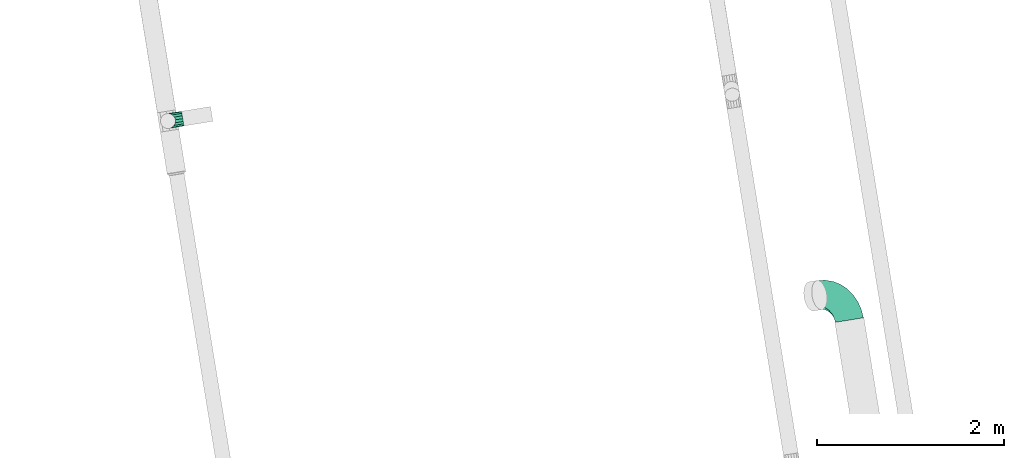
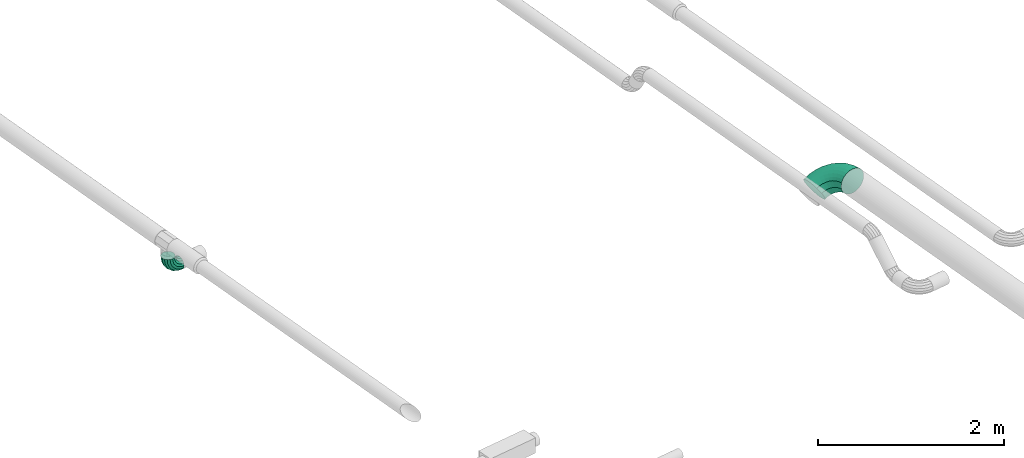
# One storey, part 18 of 19: 2 flow fittings.
"""IFC2X3 building model written with IfcOpenShell, lengths in millimetres."""

from ifc_helpers import new_model, entity, si_unit, converted_unit, derived_unit, direction, frame, origin, origin_with_axes, place, context, subcontext, project, spatial, faceted_brep, source, transform, mapped, material, type_object, element, save


model = new_model("IFC2X3")

# Units and contexts
model_context = context("Model", 3, precision=0.01, world=origin(), true_north=direction((6.12323399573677e-17, 1.0)))
plan_context = context("Plan", 3, precision=1e-05, world=origin_with_axes())
body_context = subcontext(model_context, "Body", "Model", "MODEL_VIEW")
ifc_project = project(units=[converted_unit("PLANEANGLEUNIT", "DEGREE", entity("IfcPositiveLengthMeasure", 0.0174532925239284), si_unit("PLANEANGLEUNIT", "RADIAN"), dimensions=[0, 0, 0, 0, 0, 0, 0]), si_unit("AREAUNIT", "SQUARE_METRE"), si_unit("LENGTHUNIT", "METRE", prefix="MILLI"), si_unit("MASSUNIT", "GRAM", prefix="KILO"), si_unit("POWERUNIT", "WATT"), si_unit("PRESSUREUNIT", "PASCAL", prefix="KILO"), si_unit("FORCEUNIT", "NEWTON", prefix="KILO"), si_unit("ELECTRICVOLTAGEUNIT", "VOLT"), si_unit("ELECTRICCURRENTUNIT", "AMPERE"), si_unit("THERMODYNAMICTEMPERATUREUNIT", "DEGREE_CELSIUS"), si_unit("TIMEUNIT", "SECOND"), si_unit("VOLUMEUNIT", "CUBIC_METRE"), derived_unit("LINEARVELOCITYUNIT", [(si_unit("LENGTHUNIT", "METRE"), 1), (si_unit("TIMEUNIT", "SECOND"), -1)]), derived_unit("VOLUMETRICFLOWRATEUNIT", [(si_unit("VOLUMEUNIT", "CUBIC_METRE"), 1), (si_unit("TIMEUNIT", "SECOND"), -1)]), derived_unit("THERMALTRANSMITTANCEUNIT", [(si_unit("POWERUNIT", "WATT"), 1), (si_unit("THERMODYNAMICTEMPERATUREUNIT", "KELVIN"), -1), (si_unit("AREAUNIT", "SQUARE_METRE"), -1)]), derived_unit("SOUNDPRESSUREUNIT", [(si_unit("PRESSUREUNIT", "PASCAL"), 1)])], contexts=[model_context, plan_context])

# Site, building, storey
site_placement = place(None, frame((5.09380697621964e-08, 5.80416781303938e-08, 0.0), z_axis=(0.0, 0.0, 1.0), x_axis=(-0.160806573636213, 0.986985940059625, 0.0)))
site = spatial("IfcSite", under=ifc_project, at=site_placement, Name="Default", CompositionType="ELEMENT")
building_placement = place(site_placement, frame((0.0, 0.0, 0.0), z_axis=(0.0, 0.0, 1.0), x_axis=(1.0, -2.77555756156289e-17, 0.0)))
building = spatial("IfcBuilding", under=site, at=building_placement, Name="Bygning (endres i Project Information)", CompositionType="ELEMENT")
storey_placement = place(building_placement, frame((0.0, 0.0, 51360.0000000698), z_axis=(0.0, 0.0, 1.0), x_axis=(1.0, -2.77555756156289e-17, 0.0)))
storey = spatial("IfcBuildingStorey", under=building, at=storey_placement, Name="H01-Nivå D+0,36", CompositionType="ELEMENT", Elevation=51360.0000000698)

# Flow fittings
ifc_material = material(Name="3601.001 Tilluft")
duct_fitting_type_1 = type_object("IfcDuctFittingType", Name="magicirc_elbow_full_radius_NOR:magicirc_elbow_full_radius_NOR", PredefinedType="NOTDEFINED", material=ifc_material)
shared_shape_1 = source(origin(), body_context, "Body", "Brep", [
    faceted_brep([(-98.3108360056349, -71.785784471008, 0.0), (-99.8903943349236, -65.9045703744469, 30.6146746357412), (-160.563146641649, -73.9103627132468, 30.6146746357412), (-160.563146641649, -80.0000001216, 0.0), (-104.388595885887, -49.1562896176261, 56.5685425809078), (-160.563146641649, -56.5685425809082, 56.5685425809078), (-111.12063024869, -24.0907161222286, 73.9103627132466), (-160.563146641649, -30.6146746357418, 73.9103627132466), (-119.06160621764, 5.47614376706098, 80.0000001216), (-160.563146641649, 0.0, 80.0000001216), (-127.002582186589, 35.0430036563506, 73.9103627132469), (-160.563146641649, 30.6146746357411, 73.9103627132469), (-133.734616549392, 60.1085771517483, 56.5685425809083), (-160.563146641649, 56.5685425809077, 56.5685425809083), (-138.232818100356, 76.8568579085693, 30.6146746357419), (-160.563146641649, 73.9103627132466, 30.6146746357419), (-139.812376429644, 82.7380720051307, 0.0), (-160.563146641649, 80.0000001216, 0.0), (-138.232818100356, 76.8568579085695, -30.6146746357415), (-160.563146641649, 73.9103627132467, -30.6146746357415), (-133.734616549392, 60.1085771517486, -56.568542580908), (-160.563146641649, 56.568542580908, -56.568542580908), (-127.002582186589, 35.043003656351, -73.9103627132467), (-160.563146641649, 30.6146746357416, -73.9103627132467), (-119.06160621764, 5.47614376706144, -80.0000001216), (-160.563146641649, 0.0, -80.0000001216), (-111.12063024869, -24.0907161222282, -73.9103627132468), (-160.563146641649, -30.6146746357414, -73.9103627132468), (-104.388595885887, -49.1562896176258, -56.5685425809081), (-160.563146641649, -56.5685425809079, -56.5685425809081), (-99.8903943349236, -65.9045703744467, -30.6146746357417), (-160.563146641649, -73.9103627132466, -30.6146746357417), (-40.3198078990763, -47.7054153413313, 0.0), (-43.3708009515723, -42.4352042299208, 30.6146746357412), (-52.059294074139, -27.4269127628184, 56.5685425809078), (-65.0625429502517, -4.96541726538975, 73.9103627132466), (-80.400920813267, 21.5297231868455, 80.0000001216), (-95.7392986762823, 48.0248636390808, 73.9103627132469), (-108.742547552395, 70.4863591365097, 56.5685425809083), (-117.431040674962, 85.4946506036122, 30.6146746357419), (-120.482033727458, 90.7648617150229, 0.0), (-117.431040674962, 85.4946506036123, -30.6146746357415), (-108.742547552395, 70.4863591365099, -56.568542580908), (-95.7392986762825, 48.0248636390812, -73.9103627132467), (-80.4009208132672, 21.5297231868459, -80.0000001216), (-65.062542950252, -4.96541726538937, -73.9103627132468), (-52.0592940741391, -27.4269127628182, -56.5685425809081), (-43.3708009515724, -42.4352042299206, -30.6146746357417), (9.44034759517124, -9.40723727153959, 0.0), (5.12676577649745, -5.10878456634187, 30.6146746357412), (-7.15727595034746, 7.13217309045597, 56.5685425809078), (-25.5416435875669, 25.4520608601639, 73.9103627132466), (-47.2274838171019, 47.0618419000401, 80.0000001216), (-68.9133240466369, 68.6716229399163, 73.9103627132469), (-87.2976916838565, 86.9915107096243, 56.5685425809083), (-99.5817334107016, 99.2324683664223, 30.6146746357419), (-103.895315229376, 103.53092107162, 0.0), (-99.5817334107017, 99.2324683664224, -30.6146746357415), (-87.2976916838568, 86.9915107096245, -56.568542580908), (-68.9133240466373, 68.6716229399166, -73.9103627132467), (-47.2274838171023, 47.0618419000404, -80.0000001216), (-25.5416435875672, 25.4520608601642, -73.9103627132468), (-7.15727595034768, 7.13217309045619, -56.5685425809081), (5.12676577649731, -5.10878456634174, -30.6146746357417), (47.5634584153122, 40.4871706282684, 0.0), (42.2825602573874, 43.5196281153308, 30.6146746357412), (27.2438346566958, 52.1553364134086, 56.5685425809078), (4.73679125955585, 65.0795872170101, 73.9103627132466), (-21.8120766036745, 80.3247804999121, 80.0000001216), (-48.360944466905, 95.5699737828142, 73.9103627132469), (-70.8679878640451, 108.494224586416, 56.5685425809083), (-85.9067134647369, 117.129932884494, 30.6146746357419), (-91.1876116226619, 120.162390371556, 0.0), (-85.906713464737, 117.129932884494, -30.6146746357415), (-70.8679878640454, 108.494224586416, -56.568542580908), (-48.3609444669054, 95.5699737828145, -73.9103627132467), (-21.812076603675, 80.3247804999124, -80.0000001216), (4.73679125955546, 65.0795872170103, -73.9103627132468), (27.2438346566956, 52.1553364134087, -56.5685425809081), (42.2825602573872, 43.5196281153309, -30.6146746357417), (71.4399291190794, 98.5624464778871, 0.0), (65.5532015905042, 100.121331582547, 30.6146746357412), (48.7892199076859, 104.560660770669, 56.5685425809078), (23.7001483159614, 111.204586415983, 73.9103627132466), (-5.89442946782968, 119.041631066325, 80.0000001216), (-35.4890072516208, 126.878675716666, 73.9103627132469), (-60.5780788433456, 133.52260136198, 56.5685425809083), (-77.342060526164, 137.961930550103, 30.6146746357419), (-83.2287880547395, 139.520815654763, 0.0), (-77.3420605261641, 137.961930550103, -30.6146746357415), (-60.5780788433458, 133.52260136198, -56.568542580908), (-35.4890072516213, 126.878675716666, -73.9103627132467), (-5.89442946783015, 119.041631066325, -80.0000001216), (23.700148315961, 111.204586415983, -73.9103627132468), (48.7892199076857, 104.560660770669, -56.5685425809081), (65.553201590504, 100.121331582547, -30.6146746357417), (79.4353723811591, 160.843233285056, 0.0), (73.3457725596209, 160.821837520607, 30.6146746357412), (56.0040594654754, 160.760907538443, 56.5685425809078), (30.0503517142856, 160.669719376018, 73.9103627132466), (-0.564133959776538, 160.562155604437, 80.0000001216), (-31.1786196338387, 160.454591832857, 73.9103627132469), (-57.1323273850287, 160.363403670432, 56.5685425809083), (-74.4740404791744, 160.302473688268, 30.6146746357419), (-80.5636403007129, 160.281077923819, 0.0), (-74.4740404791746, 160.302473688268, -30.6146746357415), (-57.132327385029, 160.363403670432, -56.568542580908), (-31.1786196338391, 160.454591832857, -73.9103627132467), (-0.56413395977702, 160.562155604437, -80.0000001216), (30.0503517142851, 160.669719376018, -73.9103627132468), (56.0040594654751, 160.760907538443, -56.5685425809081), (73.3457725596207, 160.821837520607, -30.6146746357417)], [[[0, 1, 2, 3]], [[1, 4, 5, 2]], [[4, 6, 7, 5]], [[6, 8, 9, 7]], [[8, 10, 11, 9]], [[10, 12, 13, 11]], [[12, 14, 15, 13]], [[14, 16, 17, 15]], [[16, 18, 19, 17]], [[18, 20, 21, 19]], [[20, 22, 23, 21]], [[22, 24, 25, 23]], [[24, 26, 27, 25]], [[26, 28, 29, 27]], [[28, 30, 31, 29]], [[30, 0, 3, 31]], [[32, 33, 1, 0]], [[33, 34, 4, 1]], [[34, 35, 6, 4]], [[35, 36, 8, 6]], [[36, 37, 10, 8]], [[37, 38, 12, 10]], [[38, 39, 14, 12]], [[39, 40, 16, 14]], [[40, 41, 18, 16]], [[41, 42, 20, 18]], [[42, 43, 22, 20]], [[43, 44, 24, 22]], [[44, 45, 26, 24]], [[45, 46, 28, 26]], [[46, 47, 30, 28]], [[47, 32, 0, 30]], [[48, 49, 33, 32]], [[49, 50, 34, 33]], [[50, 51, 35, 34]], [[51, 52, 36, 35]], [[52, 53, 37, 36]], [[53, 54, 38, 37]], [[54, 55, 39, 38]], [[55, 56, 40, 39]], [[56, 57, 41, 40]], [[57, 58, 42, 41]], [[58, 59, 43, 42]], [[59, 60, 44, 43]], [[60, 61, 45, 44]], [[61, 62, 46, 45]], [[62, 63, 47, 46]], [[63, 48, 32, 47]], [[64, 65, 49, 48]], [[65, 66, 50, 49]], [[66, 67, 51, 50]], [[67, 68, 52, 51]], [[68, 69, 53, 52]], [[69, 70, 54, 53]], [[70, 71, 55, 54]], [[71, 72, 56, 55]], [[72, 73, 57, 56]], [[73, 74, 58, 57]], [[74, 75, 59, 58]], [[75, 76, 60, 59]], [[76, 77, 61, 60]], [[77, 78, 62, 61]], [[78, 79, 63, 62]], [[79, 64, 48, 63]], [[80, 81, 65, 64]], [[81, 82, 66, 65]], [[82, 83, 67, 66]], [[83, 84, 68, 67]], [[84, 85, 69, 68]], [[85, 86, 70, 69]], [[86, 87, 71, 70]], [[87, 88, 72, 71]], [[88, 89, 73, 72]], [[89, 90, 74, 73]], [[90, 91, 75, 74]], [[91, 92, 76, 75]], [[92, 93, 77, 76]], [[93, 94, 78, 77]], [[94, 95, 79, 78]], [[95, 80, 64, 79]], [[96, 97, 81, 80]], [[97, 98, 82, 81]], [[98, 99, 83, 82]], [[99, 100, 84, 83]], [[100, 101, 85, 84]], [[101, 102, 86, 85]], [[102, 103, 87, 86]], [[103, 104, 88, 87]], [[104, 105, 89, 88]], [[105, 106, 90, 89]], [[106, 107, 91, 90]], [[107, 108, 92, 91]], [[108, 109, 93, 92]], [[109, 110, 94, 93]], [[110, 111, 95, 94]], [[111, 96, 80, 95]], [[3, 2, 5, 7, 9, 11, 13, 15, 17, 19, 21, 23, 25, 27, 29, 31]], [[111, 110, 109, 108, 107, 106, 105, 104, 103, 102, 101, 100, 99, 98, 97, 96]]]),
])
flow_fitting_1_placement = place(storey_placement, frame((1013708.49004626, -386500.237683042, 3469.99999987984), z_axis=(-1.0, 2.77554043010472e-17, 9.75184100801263e-20), x_axis=(0.0, 0.00351347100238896, -0.999993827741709)))
element("IfcFlowFitting", 1, at=flow_fitting_1_placement, inside=storey, type_object=duct_fitting_type_1, material=ifc_material, Name="magicirc_elbow_full_radius_NOR:magicirc_elbow_full_radius_NOR", ObjectType="magicirc_elbow_full_radius_NOR:magicirc_elbow_full_radius_NOR", context=body_context, shape_type="MappedRepresentation", body=[
    mapped(shared_shape_1, transform((0.0, 0.0, 0.0), scale=1.0)),
])
duct_fitting_type_2 = type_object("IfcDuctFittingType", Name="magicirc_elbow_full_radius_NOR:magicirc_elbow_full_radius_NOR", PredefinedType="NOTDEFINED", material=ifc_material)
shared_shape_2 = source(origin(), body_context, "Body", "Brep", [
    faceted_brep([(-222.819823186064, -148.421045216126, 0.0), (-223.866810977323, -143.157482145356, 40.7639996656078), (-315.000000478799, -152.133317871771, 40.7639996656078), (-315.000000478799, -157.5000002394, 0.0), (-226.936423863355, -127.725496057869, 78.7500001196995), (-315.000000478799, -136.399001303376, 78.7500001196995), (-231.819472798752, -103.176751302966, 111.369318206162), (-315.000000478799, -111.369318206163, 111.369318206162), (-238.183186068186, -71.1842042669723, 136.399001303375), (-315.000000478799, -78.7500001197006, 136.399001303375), (-245.59388712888, -33.9280941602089, 152.133317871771), (-315.000000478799, -40.763999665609, 152.133317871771), (-253.546548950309, 6.05263668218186, 157.5000002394), (-315.000000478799, 0.0, 157.5000002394), (-261.499210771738, 46.0333675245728, 152.133317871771), (-315.000000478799, 40.7639996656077, 152.133317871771), (-268.909911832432, 83.2894776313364, 136.399001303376), (-315.000000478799, 78.7500001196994, 136.399001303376), (-275.273625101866, 115.28202466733, 111.369318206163), (-315.000000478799, 111.369318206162, 111.369318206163), (-283.226286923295, 155.262755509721, 40.7639996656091), (-315.000000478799, 152.133317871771, 40.7639996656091), (-284.273274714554, 160.526318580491, 0.0), (-315.000000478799, 157.5000002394, 0.0), (-283.226286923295, 155.262755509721, -40.7639996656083), (-315.000000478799, 152.133317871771, -40.7639996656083), (-280.156674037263, 139.830769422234, -78.7500001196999), (-315.000000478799, 136.399001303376, -78.7500001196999), (-275.273625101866, 115.28202466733, -111.369318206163), (-315.000000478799, 111.369318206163, -111.369318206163), (-268.909911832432, 83.2894776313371, -136.399001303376), (-315.000000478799, 78.7500001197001, -136.399001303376), (-261.499210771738, 46.0333675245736, -152.133317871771), (-315.000000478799, 40.7639996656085, -152.133317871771), (-253.546548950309, 6.05263668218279, -157.5000002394), (-315.000000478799, 0.0, -157.5000002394), (-245.59388712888, -33.928094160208, -152.133317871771), (-315.000000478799, -40.763999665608, -152.133317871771), (-238.183186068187, -71.1842042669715, -136.399001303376), (-315.000000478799, -78.7500001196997, -136.399001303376), (-231.819472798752, -103.176751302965, -111.369318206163), (-315.000000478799, -111.369318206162, -111.369318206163), (-223.866810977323, -143.157482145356, -40.7639996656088), (-315.000000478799, -152.133317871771, -40.7639996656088), (-134.18207841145, -121.533079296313, 0.0), (-136.235818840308, -116.574911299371, 40.7639996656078), (-142.25708111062, -102.038298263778, 78.7500001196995), (-151.835526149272, -78.9138863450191, 111.369318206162), (-164.318398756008, -48.7775660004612, 136.399001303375), (-178.855011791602, -13.6830776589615, 152.133317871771), (-194.454719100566, 23.9779472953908, 157.5000002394), (-210.054426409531, 61.6389722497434, 152.133317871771), (-224.591039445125, 96.7334605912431, 136.399001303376), (-237.073912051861, 126.869780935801, 111.369318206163), (-252.673619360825, 164.530805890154, 40.7639996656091), (-254.727359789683, 169.488973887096, 0.0), (-252.673619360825, 164.530805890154, -40.7639996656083), (-246.652357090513, 149.994192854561, -78.7500001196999), (-237.073912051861, 126.869780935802, -111.369318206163), (-224.591039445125, 96.7334605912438, -136.399001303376), (-210.054426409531, 61.6389722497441, -152.133317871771), (-194.454719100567, 23.9779472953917, -157.5000002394), (-178.855011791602, -13.6830776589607, -152.133317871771), (-164.318398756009, -48.7775660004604, -136.399001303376), (-151.835526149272, -78.9138863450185, -111.369318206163), (-136.235818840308, -116.574911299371, -40.7639996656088), (-52.493064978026, -77.8693919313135, 0.0), (-55.4746339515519, -73.4071586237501, 40.7639996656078), (-64.2161518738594, -60.3245525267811, 78.7500001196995), (-78.1218987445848, -39.513131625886, 111.369318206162), (-96.2442208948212, -12.3911598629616, 136.399001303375), (-117.348112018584, 19.1930452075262, 152.133317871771), (-139.995376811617, 53.0870722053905, 157.5000002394), (-162.64264160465, 86.981099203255, 152.133317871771), (-183.746532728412, 118.565304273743, 136.399001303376), (-201.868854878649, 145.687276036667, 111.369318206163), (-224.516119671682, 179.581303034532, 40.7639996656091), (-227.497688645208, 184.043536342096, 0.0), (-224.516119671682, 179.581303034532, -40.7639996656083), (-215.774601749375, 166.498696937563, -78.7500001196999), (-201.868854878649, 145.687276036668, -111.369318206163), (-183.746532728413, 118.565304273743, -136.399001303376), (-162.64264160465, 86.9810992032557, -152.133317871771), (-139.995376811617, 53.0870722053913, -157.5000002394), (-117.348112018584, 19.1930452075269, -152.133317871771), (-96.2442208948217, -12.391159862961, -136.399001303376), (-78.1218987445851, -39.5131316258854, -111.369318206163), (-55.474633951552, -73.4071586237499, -40.7639996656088), (19.1079541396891, -19.1079541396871, 0.0), (15.3131366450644, -15.3131366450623, 40.7639996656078), (4.18729470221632, -4.18729470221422, 78.7500001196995), (-13.5113639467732, 13.5113639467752, 111.369318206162), (-36.5767049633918, 36.5767049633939, 136.399001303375), (-63.4368634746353, 63.4368634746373, 152.133317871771), (-92.2613640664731, 92.261364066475, 157.5000002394), (-121.085864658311, 121.085864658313, 152.133317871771), (-147.946023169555, 147.946023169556, 136.399001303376), (-171.011364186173, 171.011364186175, 111.369318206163), (-199.835864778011, 199.835864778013, 40.7639996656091), (-203.630682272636, 203.630682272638, 0.0), (-199.835864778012, 199.835864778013, -40.7639996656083), (-188.710022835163, 188.710022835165, -78.7500001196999), (-171.011364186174, 171.011364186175, -111.369318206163), (-147.946023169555, 147.946023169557, -136.399001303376), (-121.085864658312, 121.085864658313, -152.133317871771), (-92.2613640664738, 92.2613640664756, -157.5000002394), (-63.4368634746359, 63.4368634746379, -152.133317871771), (-36.5767049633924, 36.5767049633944, -136.399001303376), (-13.5113639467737, 13.5113639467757, -111.369318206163), (15.3131366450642, -15.3131366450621, -40.7639996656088), (77.8693919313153, 52.4930649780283, 0.0), (73.4071586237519, 55.4746339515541, 40.7639996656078), (60.3245525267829, 64.2161518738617, 78.7500001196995), (39.5131316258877, 78.1218987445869, 111.369318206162), (12.3911598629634, 96.2442208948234, 136.399001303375), (-19.1930452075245, 117.348112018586, 152.133317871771), (-53.0870722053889, 139.995376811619, 157.5000002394), (-86.9810992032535, 162.642641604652, 152.133317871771), (-118.565304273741, 183.746532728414, 136.399001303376), (-145.687276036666, 201.868854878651, 111.369318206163), (-179.581303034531, 224.516119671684, 40.7639996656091), (-184.043536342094, 227.49768864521, 0.0), (-179.581303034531, 224.516119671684, -40.7639996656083), (-166.498696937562, 215.774601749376, -78.7500001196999), (-145.687276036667, 201.868854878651, -111.369318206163), (-118.565304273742, 183.746532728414, -136.399001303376), (-86.9810992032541, 162.642641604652, -152.133317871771), (-53.0870722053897, 139.995376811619, -157.5000002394), (-19.1930452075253, 117.348112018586, -152.133317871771), (12.3911598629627, 96.2442208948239, -136.399001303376), (39.5131316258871, 78.1218987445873, -111.369318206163), (73.4071586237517, 55.4746339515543, -40.7639996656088), (121.533079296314, 134.182078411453, 0.0), (116.574911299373, 136.23581884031, 40.7639996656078), (102.038298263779, 142.257081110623, 78.7500001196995), (78.9138863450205, 151.835526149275, 111.369318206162), (48.7775660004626, 164.318398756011, 136.399001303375), (13.6830776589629, 178.855011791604, 152.133317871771), (-23.9779472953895, 194.454719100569, 157.5000002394), (-61.6389722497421, 210.054426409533, 152.133317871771), (-96.7334605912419, 224.591039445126, 136.399001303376), (-126.8697809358, 237.073912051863, 111.369318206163), (-164.530805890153, 252.673619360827, 40.7639996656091), (-169.488973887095, 254.727359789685, 0.0), (-164.530805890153, 252.673619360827, -40.7639996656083), (-149.994192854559, 246.652357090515, -78.7500001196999), (-126.869780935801, 237.073912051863, -111.369318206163), (-96.7334605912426, 224.591039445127, -136.399001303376), (-61.6389722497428, 210.054426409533, -152.133317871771), (-23.9779472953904, 194.454719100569, -157.5000002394), (13.6830776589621, 178.855011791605, -152.133317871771), (48.7775660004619, 164.318398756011, -136.399001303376), (78.9138863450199, 151.835526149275, -111.369318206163), (116.574911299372, 136.23581884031, -40.7639996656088), (148.421045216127, 222.819823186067, 0.0), (143.157482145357, 223.866810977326, 40.7639996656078), (127.725496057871, 226.936423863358, 78.7500001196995), (103.176751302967, 231.819472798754, 111.369318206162), (71.1842042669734, 238.183186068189, 136.399001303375), (33.9280941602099, 245.593887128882, 152.133317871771), (-6.05263668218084, 253.546548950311, 157.5000002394), (-46.0333675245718, 261.49921077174, 152.133317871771), (-83.2894776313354, 268.909911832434, 136.399001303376), (-115.282024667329, 275.273625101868, 111.369318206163), (-155.26275550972, 283.226286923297, 40.7639996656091), (-160.52631858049, 284.273274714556, 0.0), (-155.26275550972, 283.226286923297, -40.7639996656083), (-139.830769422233, 280.156674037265, -78.7500001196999), (-115.282024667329, 275.273625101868, -111.369318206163), (-83.2894776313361, 268.909911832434, -136.399001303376), (-46.0333675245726, 261.49921077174, -152.133317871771), (-6.05263668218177, 253.546548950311, -157.5000002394), (33.928094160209, 245.593887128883, -152.133317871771), (71.1842042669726, 238.183186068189, -136.399001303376), (103.176751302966, 231.819472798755, -111.369318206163), (143.157482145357, 223.866810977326, -40.7639996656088), (157.500000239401, 315.000000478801, 0.0), (152.133317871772, 315.000000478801, 40.7639996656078), (136.399001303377, 315.000000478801, 78.7500001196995), (111.369318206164, 315.000000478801, 111.369318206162), (78.7500001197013, 315.000000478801, 136.399001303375), (40.7639996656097, 315.000000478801, 152.133317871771), (0.0, 315.000000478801, 157.5000002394), (-40.7639996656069, 315.000000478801, 152.133317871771), (-78.7500001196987, 315.000000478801, 136.399001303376), (-111.369318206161, 315.000000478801, 111.369318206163), (-152.13331787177, 315.000000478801, 40.7639996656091), (-157.500000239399, 315.000000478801, 0.0), (-152.13331787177, 315.000000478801, -40.7639996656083), (-136.399001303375, 315.000000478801, -78.7500001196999), (-111.369318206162, 315.000000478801, -111.369318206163), (-78.7500001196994, 315.000000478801, -136.399001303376), (-40.7639996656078, 315.000000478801, -152.133317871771), (0.0, 315.000000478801, -157.5000002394), (40.7639996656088, 315.000000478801, -152.133317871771), (78.7500001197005, 315.000000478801, -136.399001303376), (111.369318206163, 315.000000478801, -111.369318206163), (152.133317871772, 315.000000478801, -40.7639996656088)], [[[0, 1, 2, 3]], [[1, 4, 5, 2]], [[4, 6, 7, 5]], [[6, 8, 9, 7]], [[8, 10, 11, 9]], [[10, 12, 13, 11]], [[12, 14, 15, 13]], [[14, 16, 17, 15]], [[16, 18, 19, 17]], [[18, 20, 21, 19]], [[20, 22, 23, 21]], [[22, 24, 25, 23]], [[24, 26, 27, 25]], [[26, 28, 29, 27]], [[28, 30, 31, 29]], [[30, 32, 33, 31]], [[32, 34, 35, 33]], [[34, 36, 37, 35]], [[36, 38, 39, 37]], [[38, 40, 41, 39]], [[40, 42, 43, 41]], [[42, 0, 3, 43]], [[44, 45, 1, 0]], [[45, 46, 4, 1]], [[46, 47, 6, 4]], [[47, 48, 8, 6]], [[48, 49, 10, 8]], [[49, 50, 12, 10]], [[50, 51, 14, 12]], [[51, 52, 16, 14]], [[52, 53, 18, 16]], [[53, 54, 20, 18]], [[54, 55, 22, 20]], [[55, 56, 24, 22]], [[56, 57, 26, 24]], [[57, 58, 28, 26]], [[58, 59, 30, 28]], [[59, 60, 32, 30]], [[60, 61, 34, 32]], [[61, 62, 36, 34]], [[62, 63, 38, 36]], [[63, 64, 40, 38]], [[64, 65, 42, 40]], [[65, 44, 0, 42]], [[66, 67, 45, 44]], [[67, 68, 46, 45]], [[68, 69, 47, 46]], [[69, 70, 48, 47]], [[70, 71, 49, 48]], [[71, 72, 50, 49]], [[72, 73, 51, 50]], [[73, 74, 52, 51]], [[74, 75, 53, 52]], [[75, 76, 54, 53]], [[76, 77, 55, 54]], [[77, 78, 56, 55]], [[78, 79, 57, 56]], [[79, 80, 58, 57]], [[80, 81, 59, 58]], [[81, 82, 60, 59]], [[82, 83, 61, 60]], [[83, 84, 62, 61]], [[84, 85, 63, 62]], [[85, 86, 64, 63]], [[86, 87, 65, 64]], [[87, 66, 44, 65]], [[88, 89, 67, 66]], [[89, 90, 68, 67]], [[90, 91, 69, 68]], [[91, 92, 70, 69]], [[92, 93, 71, 70]], [[93, 94, 72, 71]], [[94, 95, 73, 72]], [[95, 96, 74, 73]], [[96, 97, 75, 74]], [[97, 98, 76, 75]], [[98, 99, 77, 76]], [[99, 100, 78, 77]], [[100, 101, 79, 78]], [[101, 102, 80, 79]], [[102, 103, 81, 80]], [[103, 104, 82, 81]], [[104, 105, 83, 82]], [[105, 106, 84, 83]], [[106, 107, 85, 84]], [[107, 108, 86, 85]], [[108, 109, 87, 86]], [[109, 88, 66, 87]], [[110, 111, 89, 88]], [[111, 112, 90, 89]], [[112, 113, 91, 90]], [[113, 114, 92, 91]], [[114, 115, 93, 92]], [[115, 116, 94, 93]], [[116, 117, 95, 94]], [[117, 118, 96, 95]], [[118, 119, 97, 96]], [[119, 120, 98, 97]], [[120, 121, 99, 98]], [[121, 122, 100, 99]], [[122, 123, 101, 100]], [[123, 124, 102, 101]], [[124, 125, 103, 102]], [[125, 126, 104, 103]], [[126, 127, 105, 104]], [[127, 128, 106, 105]], [[128, 129, 107, 106]], [[129, 130, 108, 107]], [[130, 131, 109, 108]], [[131, 110, 88, 109]], [[132, 133, 111, 110]], [[133, 134, 112, 111]], [[134, 135, 113, 112]], [[135, 136, 114, 113]], [[136, 137, 115, 114]], [[137, 138, 116, 115]], [[138, 139, 117, 116]], [[139, 140, 118, 117]], [[140, 141, 119, 118]], [[141, 142, 120, 119]], [[142, 143, 121, 120]], [[143, 144, 122, 121]], [[144, 145, 123, 122]], [[145, 146, 124, 123]], [[146, 147, 125, 124]], [[147, 148, 126, 125]], [[148, 149, 127, 126]], [[149, 150, 128, 127]], [[150, 151, 129, 128]], [[151, 152, 130, 129]], [[152, 153, 131, 130]], [[153, 132, 110, 131]], [[154, 155, 133, 132]], [[155, 156, 134, 133]], [[156, 157, 135, 134]], [[157, 158, 136, 135]], [[158, 159, 137, 136]], [[159, 160, 138, 137]], [[160, 161, 139, 138]], [[161, 162, 140, 139]], [[162, 163, 141, 140]], [[163, 164, 142, 141]], [[164, 165, 143, 142]], [[165, 166, 144, 143]], [[166, 167, 145, 144]], [[167, 168, 146, 145]], [[168, 169, 147, 146]], [[169, 170, 148, 147]], [[170, 171, 149, 148]], [[171, 172, 150, 149]], [[172, 173, 151, 150]], [[173, 174, 152, 151]], [[174, 175, 153, 152]], [[175, 154, 132, 153]], [[176, 177, 155, 154]], [[177, 178, 156, 155]], [[178, 179, 157, 156]], [[179, 180, 158, 157]], [[180, 181, 159, 158]], [[181, 182, 160, 159]], [[182, 183, 161, 160]], [[183, 184, 162, 161]], [[184, 185, 163, 162]], [[185, 186, 164, 163]], [[186, 187, 165, 164]], [[187, 188, 166, 165]], [[188, 189, 167, 166]], [[189, 190, 168, 167]], [[190, 191, 169, 168]], [[191, 192, 170, 169]], [[192, 193, 171, 170]], [[193, 194, 172, 171]], [[194, 195, 173, 172]], [[195, 196, 174, 173]], [[196, 197, 175, 174]], [[197, 176, 154, 175]], [[3, 2, 5, 7, 9, 11, 13, 15, 17, 19, 21, 23, 25, 27, 29, 31, 33, 35, 37, 39, 41, 43]], [[197, 196, 195, 194, 193, 192, 191, 190, 189, 188, 187, 186, 185, 184, 183, 182, 181, 180, 179, 178, 177, 176]]]),
])
flow_fitting_2_placement = place(storey_placement, frame((1010755.09491528, -393341.168778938, 3350.0), z_axis=(1.38777878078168e-17, 0.500000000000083, 0.866025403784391), x_axis=(1.0, -2.77555756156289e-17, 0.0)))
element("IfcFlowFitting", 2, at=flow_fitting_2_placement, inside=storey, type_object=duct_fitting_type_2, material=ifc_material, Name="magicirc_elbow_full_radius_NOR:magicirc_elbow_full_radius_NOR", ObjectType="magicirc_elbow_full_radius_NOR:magicirc_elbow_full_radius_NOR", context=body_context, shape_type="MappedRepresentation", body=[
    mapped(shared_shape_2, transform((0.0, 0.0, 0.0), scale=1.0)),
])

save(model, "model.ifc")
